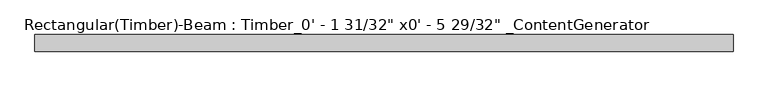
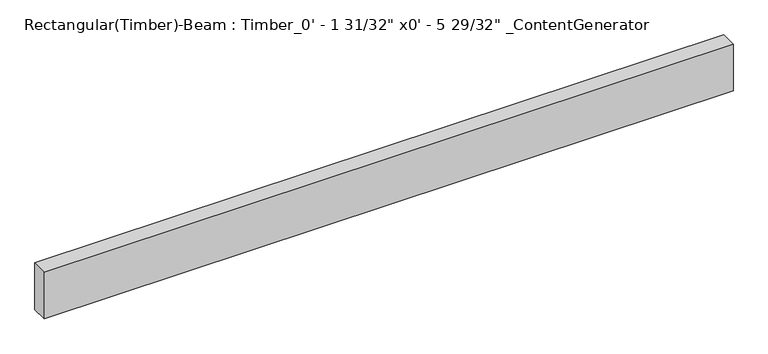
"""IFC4 building model written with IfcOpenShell, lengths in millimetres: beam geometry."""

from ifc_helpers import new_model, si_unit, frame, origin, place, context, project, spatial, polyline, outline, extrude, source, transform, mapped, element, save


def beam_e19e063e(model_context):
    return source(origin(), model_context, "Body", "SweptSolid", [
        extrude(outline(polyline([(1066.8049994, 25.4), (1066.8049994, -25.4), (-1066.8049994, -25.4), (-1066.8049994, 25.4), (1066.8049994, 25.4)])), frame((0.0, 0.0, -76.2), z_axis=(0.0, 0.0, 1.0), x_axis=(1.0, 0.0, 0.0)), (0.0, 0.0, 1.0), 152.4),
    ])


if __name__ == "__main__":
    model = new_model("IFC4")
    model_context = context("Model", 3, world=origin())
    ifc_project = project(units=[si_unit("LENGTHUNIT", "METRE", prefix="MILLI")], contexts=[model_context])
    site = spatial("IfcSite", under=ifc_project)
    building = spatial("IfcBuilding", under=site)
    placement = place(None, origin())
    beam_shape = beam_e19e063e(model_context)
    element("IfcBeam", 1, ObjectType="Rectangular(Timber)-Beam : Timber_0' - 1 31/32\" x0' - 5 29/32\" _ContentGenerator", at=placement, inside=building, context=model_context, shape_type="MappedRepresentation", body=[
        mapped(beam_shape, transform((0.0, 0.0, 0.0), x_axis=(1.0, 0.0, 0.0), y_axis=(0.0, 1.0, 0.0), z_axis=(0.0, 0.0, 1.0))),
    ])
    save(model, "model.ifc")
